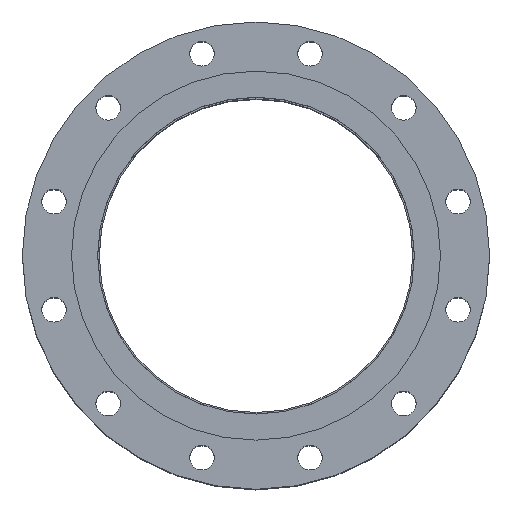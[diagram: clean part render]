
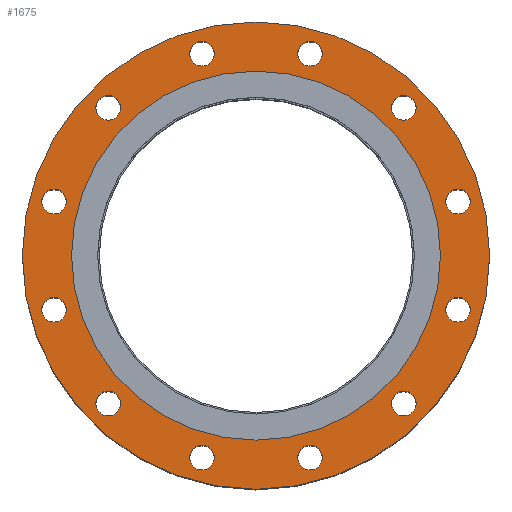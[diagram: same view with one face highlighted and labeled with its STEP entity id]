
A CAD part, top view. The second image highlights one B-rep face of the part: STEP entity #1675.
In plain terms, the highlighted planar face has unit normal (0, 0, 1).
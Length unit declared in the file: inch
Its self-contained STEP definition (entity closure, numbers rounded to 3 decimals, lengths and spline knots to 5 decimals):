
#88=FACE_BOUND('',#431,.T.);
#89=FACE_BOUND('',#432,.T.);
#90=FACE_BOUND('',#433,.T.);
#91=FACE_BOUND('',#434,.T.);
#92=FACE_BOUND('',#435,.T.);
#93=FACE_BOUND('',#436,.T.);
#94=FACE_BOUND('',#437,.T.);
#95=FACE_BOUND('',#438,.T.);
#96=FACE_BOUND('',#439,.T.);
#97=FACE_BOUND('',#440,.T.);
#98=FACE_BOUND('',#441,.T.);
#99=FACE_BOUND('',#442,.T.);
#100=FACE_BOUND('',#443,.T.);
#158=PLANE('',#1892);
#285=FACE_OUTER_BOUND('',#430,.T.);
#430=EDGE_LOOP('',(#1293));
#431=EDGE_LOOP('',(#1294));
#432=EDGE_LOOP('',(#1295));
#433=EDGE_LOOP('',(#1296));
#434=EDGE_LOOP('',(#1297));
#435=EDGE_LOOP('',(#1298));
#436=EDGE_LOOP('',(#1299));
#437=EDGE_LOOP('',(#1300));
#438=EDGE_LOOP('',(#1301));
#439=EDGE_LOOP('',(#1302));
#440=EDGE_LOOP('',(#1303));
#441=EDGE_LOOP('',(#1304));
#442=EDGE_LOOP('',(#1305));
#443=EDGE_LOOP('',(#1306));
#647=CIRCLE('',#1835,0.5);
#649=CIRCLE('',#1838,0.5);
#651=CIRCLE('',#1841,0.5);
#653=CIRCLE('',#1844,0.5);
#655=CIRCLE('',#1847,0.5);
#657=CIRCLE('',#1850,0.5);
#659=CIRCLE('',#1853,0.5);
#661=CIRCLE('',#1856,0.5);
#663=CIRCLE('',#1859,0.5);
#665=CIRCLE('',#1862,0.5);
#667=CIRCLE('',#1865,0.5);
#669=CIRCLE('',#1868,0.5);
#682=CIRCLE('',#1887,7.5);
#684=CIRCLE('',#1891,9.5);
#843=VERTEX_POINT('',#2890);
#845=VERTEX_POINT('',#2896);
#847=VERTEX_POINT('',#2902);
#849=VERTEX_POINT('',#2908);
#851=VERTEX_POINT('',#2914);
#853=VERTEX_POINT('',#2920);
#855=VERTEX_POINT('',#2926);
#857=VERTEX_POINT('',#2932);
#859=VERTEX_POINT('',#2938);
#861=VERTEX_POINT('',#2944);
#863=VERTEX_POINT('',#2950);
#865=VERTEX_POINT('',#2956);
#876=VERTEX_POINT('',#2988);
#878=VERTEX_POINT('',#2995);
#987=EDGE_CURVE('',#843,#843,#647,.T.);
#990=EDGE_CURVE('',#845,#845,#649,.T.);
#993=EDGE_CURVE('',#847,#847,#651,.T.);
#996=EDGE_CURVE('',#849,#849,#653,.T.);
#999=EDGE_CURVE('',#851,#851,#655,.T.);
#1002=EDGE_CURVE('',#853,#853,#657,.T.);
#1005=EDGE_CURVE('',#855,#855,#659,.T.);
#1008=EDGE_CURVE('',#857,#857,#661,.T.);
#1011=EDGE_CURVE('',#859,#859,#663,.T.);
#1014=EDGE_CURVE('',#861,#861,#665,.T.);
#1017=EDGE_CURVE('',#863,#863,#667,.T.);
#1020=EDGE_CURVE('',#865,#865,#669,.T.);
#1036=EDGE_CURVE('',#876,#876,#682,.T.);
#1038=EDGE_CURVE('',#878,#878,#684,.T.);
#1293=ORIENTED_EDGE('',*,*,#1038,.T.);
#1294=ORIENTED_EDGE('',*,*,#987,.T.);
#1295=ORIENTED_EDGE('',*,*,#990,.T.);
#1296=ORIENTED_EDGE('',*,*,#993,.T.);
#1297=ORIENTED_EDGE('',*,*,#996,.T.);
#1298=ORIENTED_EDGE('',*,*,#999,.T.);
#1299=ORIENTED_EDGE('',*,*,#1002,.T.);
#1300=ORIENTED_EDGE('',*,*,#1005,.T.);
#1301=ORIENTED_EDGE('',*,*,#1008,.T.);
#1302=ORIENTED_EDGE('',*,*,#1011,.T.);
#1303=ORIENTED_EDGE('',*,*,#1014,.T.);
#1304=ORIENTED_EDGE('',*,*,#1017,.T.);
#1305=ORIENTED_EDGE('',*,*,#1020,.T.);
#1306=ORIENTED_EDGE('',*,*,#1036,.T.);
#1675=ADVANCED_FACE('',(#285,#88,#89,#90,#91,#92,#93,#94,#95,#96,#97,#98,
#99,#100),#158,.T.);
#1835=AXIS2_PLACEMENT_3D('',#2891,#2183,#2184);
#1838=AXIS2_PLACEMENT_3D('',#2897,#2190,#2191);
#1841=AXIS2_PLACEMENT_3D('',#2903,#2197,#2198);
#1844=AXIS2_PLACEMENT_3D('',#2909,#2204,#2205);
#1847=AXIS2_PLACEMENT_3D('',#2915,#2211,#2212);
#1850=AXIS2_PLACEMENT_3D('',#2921,#2218,#2219);
#1853=AXIS2_PLACEMENT_3D('',#2927,#2225,#2226);
#1856=AXIS2_PLACEMENT_3D('',#2933,#2232,#2233);
#1859=AXIS2_PLACEMENT_3D('',#2939,#2239,#2240);
#1862=AXIS2_PLACEMENT_3D('',#2945,#2246,#2247);
#1865=AXIS2_PLACEMENT_3D('',#2951,#2253,#2254);
#1868=AXIS2_PLACEMENT_3D('',#2957,#2260,#2261);
#1887=AXIS2_PLACEMENT_3D('',#2990,#2301,#2302);
#1891=AXIS2_PLACEMENT_3D('',#2996,#2309,#2310);
#1892=AXIS2_PLACEMENT_3D('',#2998,#2312,#2313);
#2183=DIRECTION('center_axis',(0.,0.,-1.));
#2184=DIRECTION('ref_axis',(0.866,-0.5,0.));
#2190=DIRECTION('center_axis',(0.,0.,-1.));
#2191=DIRECTION('ref_axis',(0.5,-0.866,0.));
#2197=DIRECTION('center_axis',(0.,0.,-1.));
#2198=DIRECTION('ref_axis',(0.,-1.,0.));
#2204=DIRECTION('center_axis',(0.,0.,-1.));
#2205=DIRECTION('ref_axis',(-0.5,-0.866,0.));
#2211=DIRECTION('center_axis',(0.,0.,-1.));
#2212=DIRECTION('ref_axis',(-0.866,-0.5,0.));
#2218=DIRECTION('center_axis',(0.,0.,-1.));
#2219=DIRECTION('ref_axis',(-1.,0.,0.));
#2225=DIRECTION('center_axis',(0.,0.,-1.));
#2226=DIRECTION('ref_axis',(-0.866,0.5,0.));
#2232=DIRECTION('center_axis',(0.,0.,-1.));
#2233=DIRECTION('ref_axis',(-0.5,0.866,0.));
#2239=DIRECTION('center_axis',(0.,0.,-1.));
#2240=DIRECTION('ref_axis',(0.,1.,0.));
#2246=DIRECTION('center_axis',(0.,0.,-1.));
#2247=DIRECTION('ref_axis',(0.5,0.866,0.));
#2253=DIRECTION('center_axis',(0.,0.,-1.));
#2254=DIRECTION('ref_axis',(0.866,0.5,0.));
#2260=DIRECTION('center_axis',(0.,0.,-1.));
#2261=DIRECTION('ref_axis',(1.,0.,0.));
#2301=DIRECTION('center_axis',(0.,0.,-1.));
#2302=DIRECTION('ref_axis',(0.,1.,0.));
#2309=DIRECTION('center_axis',(0.,0.,1.));
#2310=DIRECTION('ref_axis',(1.,0.,0.));
#2312=DIRECTION('center_axis',(0.,0.,1.));
#2313=DIRECTION('ref_axis',(1.,0.,0.));
#2890=CARTESIAN_POINT('',(1.76695,8.46037,0.595));
#2891=CARTESIAN_POINT('Origin',(2.19996,8.21037,0.595));
#2896=CARTESIAN_POINT('',(5.76041,6.44342,0.595));
#2897=CARTESIAN_POINT('Origin',(6.01041,6.01041,0.595));
#2902=CARTESIAN_POINT('',(8.21037,2.69996,0.595));
#2903=CARTESIAN_POINT('Origin',(8.21037,2.19996,0.595));
#2908=CARTESIAN_POINT('',(8.46037,-1.76695,0.595));
#2909=CARTESIAN_POINT('Origin',(8.21037,-2.19996,0.595));
#2914=CARTESIAN_POINT('',(6.44342,-5.76041,0.595));
#2915=CARTESIAN_POINT('Origin',(6.01041,-6.01041,0.595));
#2920=CARTESIAN_POINT('',(2.69996,-8.21037,0.595));
#2921=CARTESIAN_POINT('Origin',(2.19996,-8.21037,0.595));
#2926=CARTESIAN_POINT('',(-1.76695,-8.46037,0.595));
#2927=CARTESIAN_POINT('Origin',(-2.19996,-8.21037,0.595));
#2932=CARTESIAN_POINT('',(-5.76041,-6.44342,0.595));
#2933=CARTESIAN_POINT('Origin',(-6.01041,-6.01041,0.595));
#2938=CARTESIAN_POINT('',(-8.21037,-2.69996,0.595));
#2939=CARTESIAN_POINT('Origin',(-8.21037,-2.19996,0.595));
#2944=CARTESIAN_POINT('',(-8.46037,1.76695,0.595));
#2945=CARTESIAN_POINT('Origin',(-8.21037,2.19996,0.595));
#2950=CARTESIAN_POINT('',(-6.44342,5.76041,0.595));
#2951=CARTESIAN_POINT('Origin',(-6.01041,6.01041,0.595));
#2956=CARTESIAN_POINT('',(-2.69996,8.21037,0.595));
#2957=CARTESIAN_POINT('Origin',(-2.19996,8.21037,0.595));
#2988=CARTESIAN_POINT('',(0.,-7.5,0.595));
#2990=CARTESIAN_POINT('Origin',(0.,0.,0.595));
#2995=CARTESIAN_POINT('',(0.,-9.5,0.595));
#2996=CARTESIAN_POINT('Origin',(0.,0.,0.595));
#2998=CARTESIAN_POINT('Origin',(0.,6.44,0.595));
